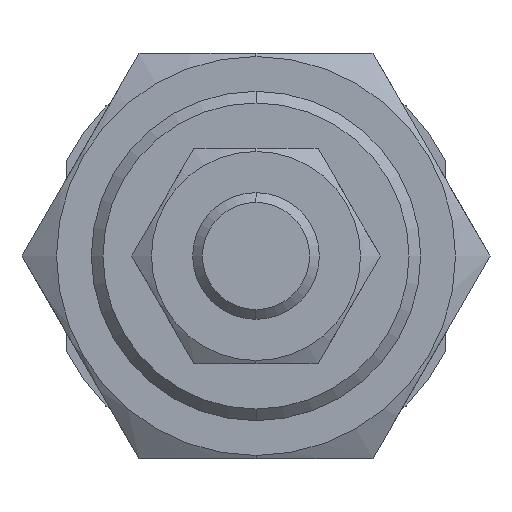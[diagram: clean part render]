
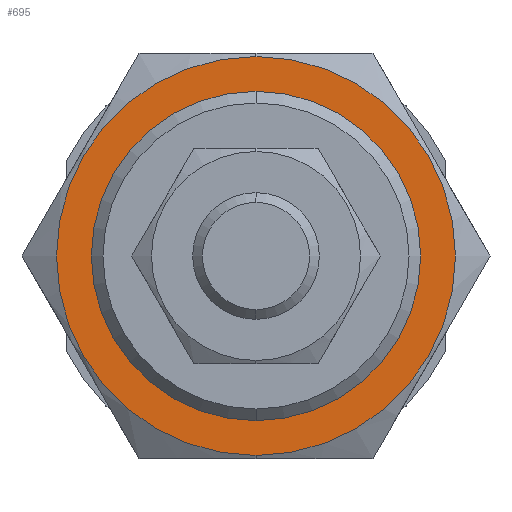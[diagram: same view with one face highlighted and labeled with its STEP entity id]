
A CAD part, left-side view. The second image highlights one B-rep face of the part: STEP entity #695.
In plain terms, the highlighted planar face has unit normal (-1, 0, 0).
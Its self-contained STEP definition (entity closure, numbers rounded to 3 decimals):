
#31 = ORIENTED_EDGE ( 'NONE', *, *, #4522, .T. ) ;
#158 = FACE_BOUND ( 'NONE', #2915, .T. ) ;
#172 = EDGE_CURVE ( 'NONE', #2050, #2978, #1580, .T. ) ;
#369 = CIRCLE ( 'NONE', #3138, 15.75 ) ;
#545 = DIRECTION ( 'NONE',  ( 0., 1., 0. ) ) ;
#565 = DIRECTION ( 'NONE',  ( 0., 0., -1. ) ) ;
#592 = DIRECTION ( 'NONE',  ( 1., 0., 0. ) ) ;
#604 = AXIS2_PLACEMENT_3D ( 'NONE', #4648, #1735, #565 ) ;
#676 = ORIENTED_EDGE ( 'NONE', *, *, #172, .F. ) ;
#695 = ADVANCED_FACE ( 'NONE', ( #2578, #158 ), #3471, .F. ) ;
#705 = AXIS2_PLACEMENT_3D ( 'NONE', #3797, #1386, #976 ) ;
#976 = DIRECTION ( 'NONE',  ( 0., 0., -1. ) ) ;
#1126 = CARTESIAN_POINT ( 'NONE',  ( -11., 0., 15.75 ) ) ;
#1154 = EDGE_CURVE ( 'NONE', #2978, #2050, #369, .T. ) ;
#1172 = DIRECTION ( 'NONE',  ( 1., 0., 0. ) ) ;
#1386 = DIRECTION ( 'NONE',  ( 1., 0., 0. ) ) ;
#1580 = CIRCLE ( 'NONE', #705, 15.75 ) ;
#1684 = CARTESIAN_POINT ( 'NONE',  ( -11., 0., 0. ) ) ;
#1735 = DIRECTION ( 'NONE',  ( 1., 0., 0. ) ) ;
#2050 = VERTEX_POINT ( 'NONE', #3117 ) ;
#2199 = VERTEX_POINT ( 'NONE', #4775 ) ;
#2394 = CARTESIAN_POINT ( 'NONE',  ( -11., 0., 0. ) ) ;
#2578 = FACE_OUTER_BOUND ( 'NONE', #4572, .T. ) ;
#2915 = EDGE_LOOP ( 'NONE', ( #31, #3462 ) ) ;
#2930 = DIRECTION ( 'NONE',  ( 0., 0., -1. ) ) ;
#2978 = VERTEX_POINT ( 'NONE', #1126 ) ;
#3066 = VERTEX_POINT ( 'NONE', #4129 ) ;
#3116 = CIRCLE ( 'NONE', #604, 13. ) ;
#3117 = CARTESIAN_POINT ( 'NONE',  ( -11., 0., -15.75 ) ) ;
#3138 = AXIS2_PLACEMENT_3D ( 'NONE', #2394, #1172, #3208 ) ;
#3199 = AXIS2_PLACEMENT_3D ( 'NONE', #3825, #592, #545 ) ;
#3208 = DIRECTION ( 'NONE',  ( 0., 0., -1. ) ) ;
#3462 = ORIENTED_EDGE ( 'NONE', *, *, #4507, .T. ) ;
#3468 = CIRCLE ( 'NONE', #4492, 13. ) ;
#3471 = PLANE ( 'NONE',  #3199 ) ;
#3793 = DIRECTION ( 'NONE',  ( 1., 0., 0. ) ) ;
#3797 = CARTESIAN_POINT ( 'NONE',  ( -11., 0., 0. ) ) ;
#3825 = CARTESIAN_POINT ( 'NONE',  ( -11., 0., 0. ) ) ;
#3886 = ORIENTED_EDGE ( 'NONE', *, *, #1154, .F. ) ;
#4129 = CARTESIAN_POINT ( 'NONE',  ( -11., 0., 13. ) ) ;
#4492 = AXIS2_PLACEMENT_3D ( 'NONE', #1684, #3793, #2930 ) ;
#4507 = EDGE_CURVE ( 'NONE', #2199, #3066, #3468, .T. ) ;
#4522 = EDGE_CURVE ( 'NONE', #3066, #2199, #3116, .T. ) ;
#4572 = EDGE_LOOP ( 'NONE', ( #676, #3886 ) ) ;
#4648 = CARTESIAN_POINT ( 'NONE',  ( -11., 0., 0. ) ) ;
#4775 = CARTESIAN_POINT ( 'NONE',  ( -11., 0., -13. ) ) ;
